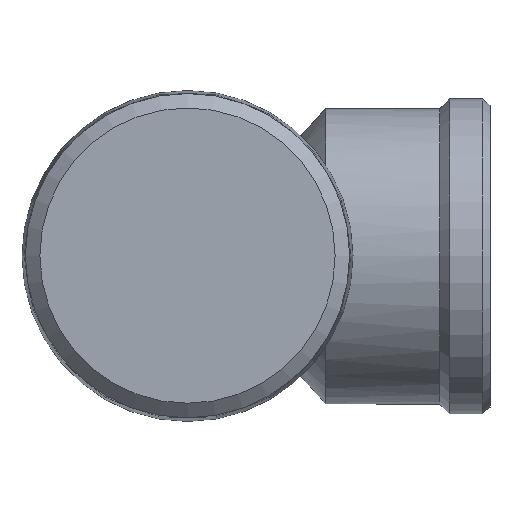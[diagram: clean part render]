
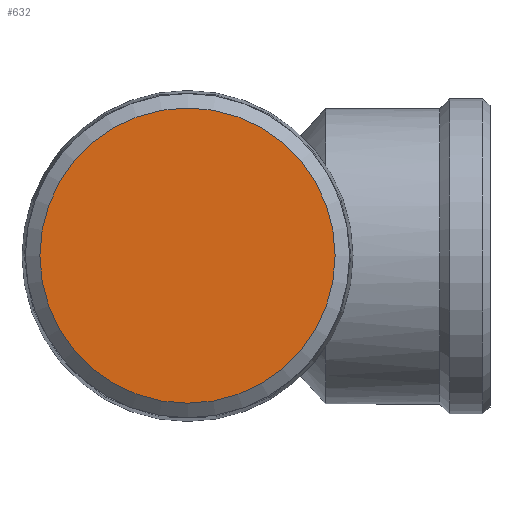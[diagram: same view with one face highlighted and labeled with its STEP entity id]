
A CAD part, top view. The second image highlights one B-rep face of the part: STEP entity #632.
In plain terms, the highlighted planar face has unit normal (0, 0, 1).
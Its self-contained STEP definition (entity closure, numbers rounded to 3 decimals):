
#158=FACE_OUTER_BOUND('',#210,.T.);
#210=EDGE_LOOP('',(#549));
#255=CIRCLE('',#716,22.937);
#320=VERTEX_POINT('',#1210);
#405=EDGE_CURVE('',#320,#320,#255,.T.);
#549=ORIENTED_EDGE('',*,*,#405,.F.);
#597=PLANE('',#718);
#632=ADVANCED_FACE('',(#158),#597,.T.);
#716=AXIS2_PLACEMENT_3D('',#1211,#885,#886);
#718=AXIS2_PLACEMENT_3D('',#1213,#889,#890);
#885=DIRECTION('center_axis',(0.,0.,-1.));
#886=DIRECTION('ref_axis',(-1.,0.,0.));
#889=DIRECTION('center_axis',(0.,0.,1.));
#890=DIRECTION('ref_axis',(1.,0.,0.));
#1210=CARTESIAN_POINT('',(-22.937,0.,64.033));
#1211=CARTESIAN_POINT('Origin',(0.,0.,64.033));
#1213=CARTESIAN_POINT('Origin',(-16.585,0.,64.033));
